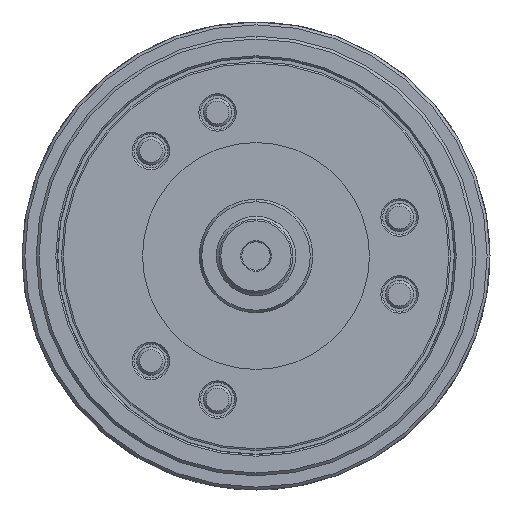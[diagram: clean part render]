
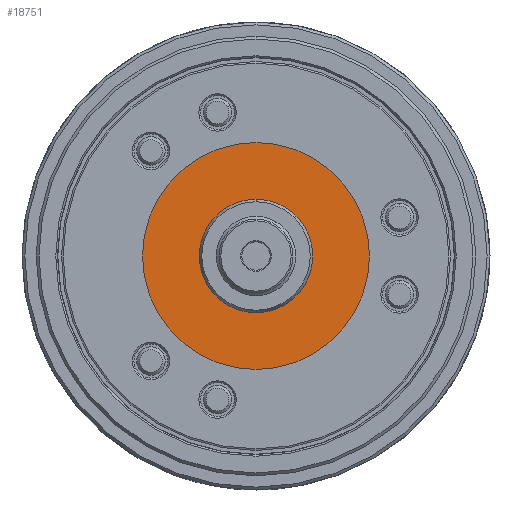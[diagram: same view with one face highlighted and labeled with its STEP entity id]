
A CAD part, left-side view. The second image highlights one B-rep face of the part: STEP entity #18751.
In plain terms, the highlighted planar face has unit normal (-1, 0, 0).
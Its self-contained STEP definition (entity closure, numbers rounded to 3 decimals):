
#637 = CARTESIAN_POINT ( 'NONE',  ( -71.3, 0., 0. ) ) ;
#706 = CIRCLE ( 'NONE', #32392, 20. ) ;
#759 = AXIS2_PLACEMENT_3D ( 'NONE', #10533, #11095, #10723 ) ;
#1236 = EDGE_CURVE ( 'NONE', #10470, #17508, #16700, .T. ) ;
#2840 = CARTESIAN_POINT ( 'NONE',  ( -71.3, -20., -34.641 ) ) ;
#2992 = AXIS2_PLACEMENT_3D ( 'NONE', #24150, #30144, #18374 ) ;
#3554 = EDGE_LOOP ( 'NONE', ( #31458, #32944 ) ) ;
#3844 = DIRECTION ( 'NONE',  ( 0., -0.5, -0.866 ) ) ;
#4611 = VERTEX_POINT ( 'NONE', #2840 ) ;
#5166 = EDGE_CURVE ( 'NONE', #17508, #10470, #706, .T. ) ;
#5225 = DIRECTION ( 'NONE',  ( 0., -0.5, -0.866 ) ) ;
#7019 = EDGE_CURVE ( 'NONE', #4611, #13549, #22267, .T. ) ;
#7236 = CARTESIAN_POINT ( 'NONE',  ( -71.3, 20., 34.641 ) ) ;
#10470 = VERTEX_POINT ( 'NONE', #29561 ) ;
#10533 = CARTESIAN_POINT ( 'NONE',  ( -71.3, 0., 0. ) ) ;
#10674 = PLANE ( 'NONE',  #14744 ) ;
#10723 = DIRECTION ( 'NONE',  ( 0., -0.5, -0.866 ) ) ;
#11095 = DIRECTION ( 'NONE',  ( 1., 0., 0. ) ) ;
#12267 = DIRECTION ( 'NONE',  ( 0., -0.5, -0.866 ) ) ;
#12479 = DIRECTION ( 'NONE',  ( 1., 0., 0. ) ) ;
#13490 = CARTESIAN_POINT ( 'NONE',  ( -71.3, 20., 34.641 ) ) ;
#13549 = VERTEX_POINT ( 'NONE', #7236 ) ;
#14744 = AXIS2_PLACEMENT_3D ( 'NONE', #13490, #36297, #5225 ) ;
#16700 = CIRCLE ( 'NONE', #31630, 20. ) ;
#17508 = VERTEX_POINT ( 'NONE', #28833 ) ;
#18374 = DIRECTION ( 'NONE',  ( 0., -0.5, -0.866 ) ) ;
#18751 = ADVANCED_FACE ( 'NONE', ( #22456, #24878 ), #10674, .F. ) ;
#22267 = CIRCLE ( 'NONE', #759, 40. ) ;
#22456 = FACE_BOUND ( 'NONE', #26162, .T. ) ;
#24150 = CARTESIAN_POINT ( 'NONE',  ( -71.3, 0., 0. ) ) ;
#24673 = ORIENTED_EDGE ( 'NONE', *, *, #5166, .T. ) ;
#24878 = FACE_OUTER_BOUND ( 'NONE', #3554, .T. ) ;
#25221 = EDGE_CURVE ( 'NONE', #13549, #4611, #27497, .T. ) ;
#26162 = EDGE_LOOP ( 'NONE', ( #24673, #26516 ) ) ;
#26507 = CARTESIAN_POINT ( 'NONE',  ( -71.3, 0., 0. ) ) ;
#26516 = ORIENTED_EDGE ( 'NONE', *, *, #1236, .T. ) ;
#27497 = CIRCLE ( 'NONE', #2992, 40. ) ;
#28833 = CARTESIAN_POINT ( 'NONE',  ( -71.3, 0., -20. ) ) ;
#29561 = CARTESIAN_POINT ( 'NONE',  ( -71.3, 0., 20. ) ) ;
#30144 = DIRECTION ( 'NONE',  ( 1., 0., 0. ) ) ;
#31458 = ORIENTED_EDGE ( 'NONE', *, *, #7019, .F. ) ;
#31630 = AXIS2_PLACEMENT_3D ( 'NONE', #26507, #12479, #3844 ) ;
#32392 = AXIS2_PLACEMENT_3D ( 'NONE', #637, #32447, #12267 ) ;
#32447 = DIRECTION ( 'NONE',  ( 1., 0., 0. ) ) ;
#32944 = ORIENTED_EDGE ( 'NONE', *, *, #25221, .F. ) ;
#36297 = DIRECTION ( 'NONE',  ( 1., 0., 0. ) ) ;
